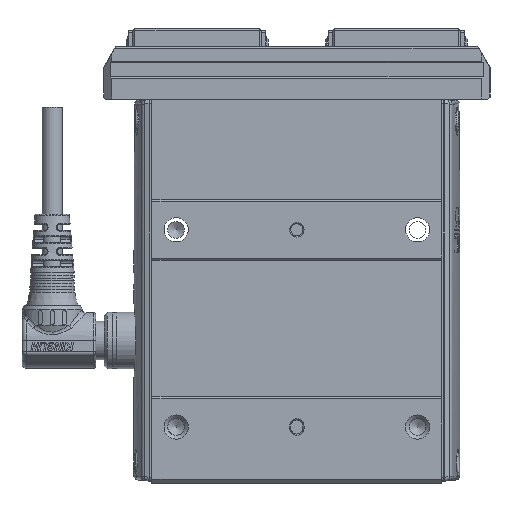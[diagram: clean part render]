
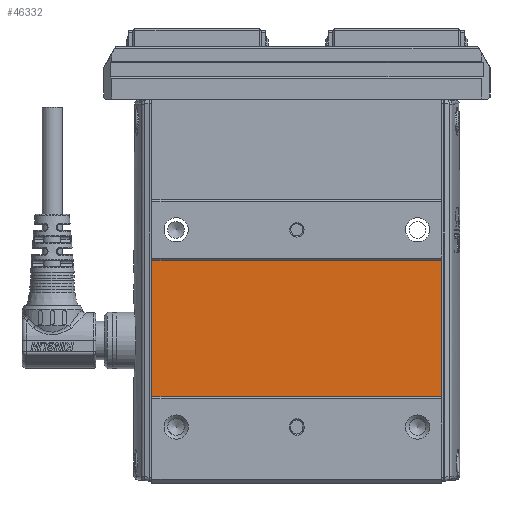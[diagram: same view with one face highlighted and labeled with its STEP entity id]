
A CAD part, front view. The second image highlights one B-rep face of the part: STEP entity #46332.
In plain terms, the highlighted planar face has unit normal (0, -1, 0).
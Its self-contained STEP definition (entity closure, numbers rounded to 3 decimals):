
#4638=PLANE('',#49451);
#6127=FACE_OUTER_BOUND('',#8716,.T.);
#8716=EDGE_LOOP('',(#33425,#33426,#33427,#33428));
#11610=LINE('',#70073,#14970);
#11611=LINE('',#70076,#14971);
#11612=LINE('',#70078,#14972);
#11613=LINE('',#70079,#14973);
#14970=VECTOR('',#55642,10.);
#14971=VECTOR('',#55645,10.);
#14972=VECTOR('',#55646,10.);
#14973=VECTOR('',#55647,10.);
#21096=VERTEX_POINT('',#70069);
#21097=VERTEX_POINT('',#70071);
#21098=VERTEX_POINT('',#70075);
#21099=VERTEX_POINT('',#70077);
#25868=EDGE_CURVE('',#21096,#21097,#11610,.T.);
#25869=EDGE_CURVE('',#21098,#21097,#11611,.T.);
#25870=EDGE_CURVE('',#21098,#21099,#11612,.T.);
#25871=EDGE_CURVE('',#21096,#21099,#11613,.T.);
#33425=ORIENTED_EDGE('',*,*,#25868,.T.);
#33426=ORIENTED_EDGE('',*,*,#25869,.F.);
#33427=ORIENTED_EDGE('',*,*,#25870,.T.);
#33428=ORIENTED_EDGE('',*,*,#25871,.F.);
#46332=ADVANCED_FACE('',(#6127),#4638,.T.);
#49451=AXIS2_PLACEMENT_3D('',#70074,#55643,#55644);
#55642=DIRECTION('',(-1.,0.,0.));
#55643=DIRECTION('center_axis',(0.,-1.,0.));
#55644=DIRECTION('ref_axis',(0.,0.,
-1.));
#55645=DIRECTION('',(0.,0.,1.));
#55646=DIRECTION('',(1.,0.,0.));
#55647=DIRECTION('',(0.,0.,-1.));
#70069=CARTESIAN_POINT('',(36.,-21.,-28.5));
#70071=CARTESIAN_POINT('',(-36.,-21.,-28.5));
#70073=CARTESIAN_POINT('',(0.,-21.,-28.5));
#70074=CARTESIAN_POINT('Origin',(0.,-21.,17.5));
#70075=CARTESIAN_POINT('',(-36.,-21.,-62.5));
#70076=CARTESIAN_POINT('',(-36.,-21.,17.5));
#70077=CARTESIAN_POINT('',(36.,-21.,-62.5));
#70078=CARTESIAN_POINT('',(0.,-21.,-62.5));
#70079=CARTESIAN_POINT('',(36.,-21.,17.5));
